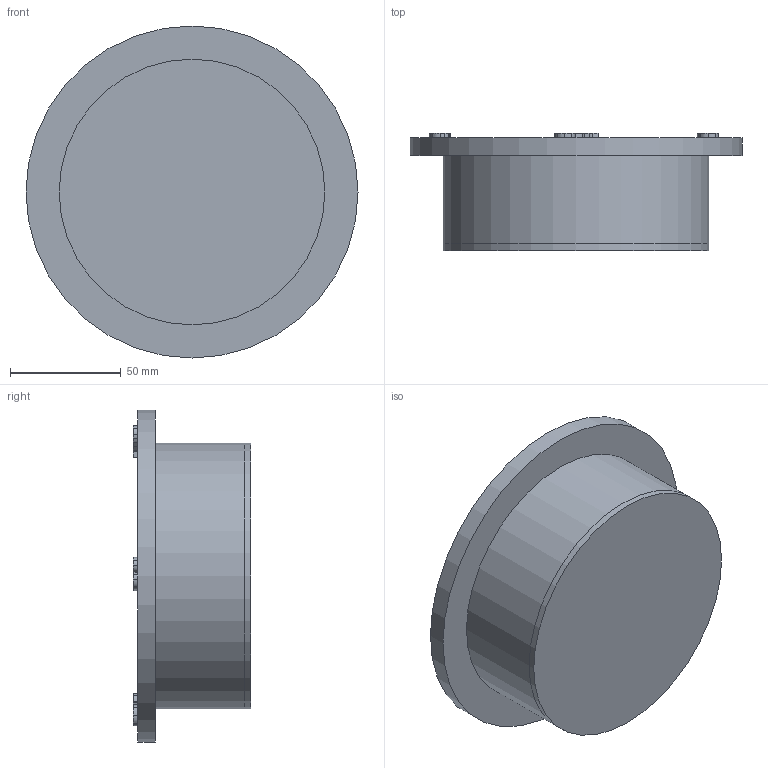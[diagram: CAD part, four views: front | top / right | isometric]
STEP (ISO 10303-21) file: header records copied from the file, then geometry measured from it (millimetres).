
FILE_DESCRIPTION(/* description */ (''),/* implementation_level */ '2;1');
FILE_NAME(/* name */ 'E:/fablab/work/week3/Smart Clock.step',/* time_stamp */ '2020-10-12T16:21:38+06:00',/* author */ (''),/* organization */ (''),/* preprocessor_version */ 'ST-DEVELOPER v18.1',/* originating_system */ 'Autodesk Translation Framework v9.3.0.1241',/* authorisation */ '');
FILE_SCHEMA (('AUTOMOTIVE_DESIGN { 1 0 10303 214 3 1 1 }'));
Length unit declared in the file: millimetre
Products named in the file (1): (Unsaved)
Bounding box: 150 x 53 x 150 mm (x, y, z)
Volume: 226814.1 mm3; surface area: 115018.2 mm2
Topology: 3 solids, 3 shells, 123 faces, 327 edges, 218 vertices
Faces by surface type: bspline 91, plane 28, cylinder 4
Full cylindrical faces by diameter (mm): 116 x1, 120 x2, 150 x1
Entity records: 4704 total; most frequent: CARTESIAN_POINT 2216, ORIENTED_EDGE 654, EDGE_CURVE 327, DIRECTION 219, VERTEX_POINT 218, B_SPLINE_CURVE_WITH_KNOTS 182, LINE 137, VECTOR 137
